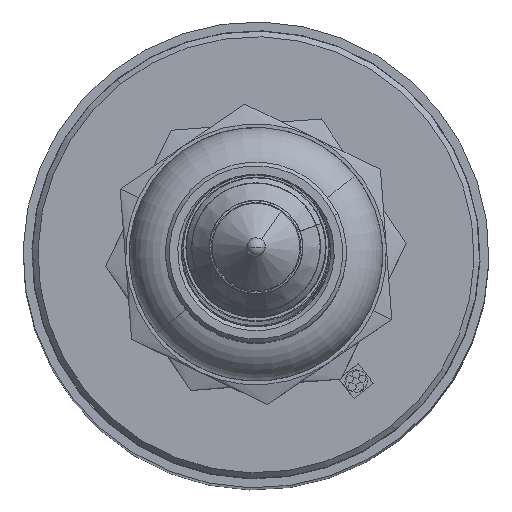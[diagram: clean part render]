
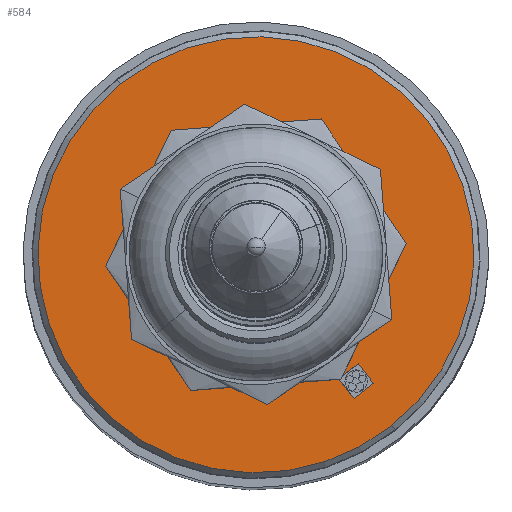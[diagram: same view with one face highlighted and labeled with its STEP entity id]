
A CAD part, top view. The second image highlights one B-rep face of the part: STEP entity #584.
In plain terms, the highlighted planar face has unit normal (0, 0, 1).
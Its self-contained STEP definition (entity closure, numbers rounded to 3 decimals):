
#584=ADVANCED_FACE('',(#1574,#1575),#1576,.T.);
#1574=FACE_OUTER_BOUND('',#2820,.T.);
#1575=FACE_BOUND('',#2821,.T.);
#1576=PLANE('',#2822);
#2820=EDGE_LOOP('',(#6100,#6101));
#2821=EDGE_LOOP('',(#6102,#6103,#6104,#6105,#6106,#6107,#6108,#6109,#6110,#6111));
#2822=AXIS2_PLACEMENT_3D('',#6112,#6113,#6114);
#6100=ORIENTED_EDGE('',*,*,#8878,.F.);
#6101=ORIENTED_EDGE('',*,*,#8479,.F.);
#6102=ORIENTED_EDGE('',*,*,#8879,.T.);
#6103=ORIENTED_EDGE('',*,*,#8880,.T.);
#6104=ORIENTED_EDGE('',*,*,#8881,.T.);
#6105=ORIENTED_EDGE('',*,*,#8882,.T.);
#6106=ORIENTED_EDGE('',*,*,#8883,.T.);
#6107=ORIENTED_EDGE('',*,*,#8884,.T.);
#6108=ORIENTED_EDGE('',*,*,#8885,.T.);
#6109=ORIENTED_EDGE('',*,*,#8886,.T.);
#6110=ORIENTED_EDGE('',*,*,#8887,.T.);
#6111=ORIENTED_EDGE('',*,*,#8888,.T.);
#6112=CARTESIAN_POINT('',(-5.413,6.828,-97.4));
#6113=DIRECTION('',(0.0,0.0,1.0));
#6114=DIRECTION('',(0.784,0.621,0.0));
#8479=EDGE_CURVE('',#10275,#10277,#10278,.T.);
#8878=EDGE_CURVE('',#10277,#10275,#10934,.T.);
#8879=EDGE_CURVE('',#10935,#10936,#10937,.T.);
#8880=EDGE_CURVE('',#10936,#10938,#10939,.T.);
#8881=EDGE_CURVE('',#10938,#10940,#10941,.T.);
#8882=EDGE_CURVE('',#10940,#10942,#10943,.T.);
#8883=EDGE_CURVE('',#10942,#10944,#10945,.T.);
#8884=EDGE_CURVE('',#10944,#10946,#10947,.T.);
#8885=EDGE_CURVE('',#10946,#10948,#10949,.T.);
#8886=EDGE_CURVE('',#10948,#10950,#10951,.T.);
#8887=EDGE_CURVE('',#10950,#10952,#10953,.T.);
#8888=EDGE_CURVE('',#10952,#10935,#10954,.T.);
#10275=VERTEX_POINT('',#12830);
#10277=VERTEX_POINT('',#12833);
#10278=CIRCLE('',#12834,11.7);
#10934=CIRCLE('',#14040,11.7);
#10935=VERTEX_POINT('',#14041);
#10936=VERTEX_POINT('',#14042);
#10937=LINE('',#14043,#14044);
#10938=VERTEX_POINT('',#14045);
#10939=LINE('',#14046,#14047);
#10940=VERTEX_POINT('',#14048);
#10941=LINE('',#14049,#14050);
#10942=VERTEX_POINT('',#14051);
#10943=LINE('',#14052,#14053);
#10944=VERTEX_POINT('',#14054);
#10945=LINE('',#14055,#14056);
#10946=VERTEX_POINT('',#14057);
#10947=LINE('',#14058,#14059);
#10948=VERTEX_POINT('',#14060);
#10949=LINE('',#14061,#14062);
#10950=VERTEX_POINT('',#14063);
#10951=LINE('',#14064,#14065);
#10952=VERTEX_POINT('',#14066);
#10953=LINE('',#14067,#14068);
#10954=LINE('',#14069,#14070);
#12830=CARTESIAN_POINT('',(-7.269,9.168,-97.4));
#12833=CARTESIAN_POINT('',(7.269,-9.168,-97.4));
#12834=AXIS2_PLACEMENT_3D('',#16649,#16650,#16651);
#14040=AXIS2_PLACEMENT_3D('',#17356,#17357,#17358);
#14041=CARTESIAN_POINT('',(4.457,-6.684,-97.4));
#14042=CARTESIAN_POINT('',(-3.504,-7.284,-97.4));
#14043=CARTESIAN_POINT('',(4.457,-6.684,-97.4));
#14044=VECTOR('',#17359,7.984);
#14045=CARTESIAN_POINT('',(-8.06,-0.607,-97.4));
#14046=CARTESIAN_POINT('',(-3.504,-7.284,-97.4));
#14047=VECTOR('',#17360,8.083);
#14048=CARTESIAN_POINT('',(-4.556,6.677,-97.4));
#14049=CARTESIAN_POINT('',(-8.06,-0.607,-97.4));
#14050=VECTOR('',#17361,8.083);
#14051=CARTESIAN_POINT('',(3.504,7.284,-97.4));
#14052=CARTESIAN_POINT('',(-4.556,6.677,-97.4));
#14053=VECTOR('',#17362,8.083);
#14054=CARTESIAN_POINT('',(8.06,0.607,-97.4));
#14055=CARTESIAN_POINT('',(3.504,7.284,-97.4));
#14056=VECTOR('',#17363,8.083);
#14057=CARTESIAN_POINT('',(4.632,-6.517,-97.4));
#14058=CARTESIAN_POINT('',(8.06,0.607,-97.4));
#14059=VECTOR('',#17364,7.906);
#14060=CARTESIAN_POINT('',(5.478,-5.847,-97.4));
#14061=CARTESIAN_POINT('',(4.632,-6.517,-97.4));
#14062=VECTOR('',#17365,1.079);
#14063=CARTESIAN_POINT('',(6.298,-6.881,-97.4));
#14064=CARTESIAN_POINT('',(5.478,-5.847,-97.4));
#14065=VECTOR('',#17366,1.32);
#14066=CARTESIAN_POINT('',(5.264,-7.701,-97.4));
#14067=CARTESIAN_POINT('',(6.298,-6.881,-97.4));
#14068=VECTOR('',#17367,1.32);
#14069=CARTESIAN_POINT('',(5.264,-7.701,-97.4));
#14070=VECTOR('',#17368,1.298);
#16649=CARTESIAN_POINT('',(0.,0.,-97.4));
#16650=DIRECTION('',(0.0,0.0,-1.0));
#16651=DIRECTION('',(-0.621,0.784,0.0));
#17356=CARTESIAN_POINT('',(0.,0.,-97.4));
#17357=DIRECTION('',(0.0,0.0,-1.0));
#17358=DIRECTION('',(-0.621,0.784,0.0));
#17359=DIRECTION('',(-0.997,-0.075,0.0));
#17360=DIRECTION('',(-0.564,0.826,0.0));
#17361=DIRECTION('',(0.434,0.901,0.0));
#17362=DIRECTION('',(0.997,0.075,0.0));
#17363=DIRECTION('',(0.564,-0.826,0.0));
#17364=DIRECTION('',(-0.434,-0.901,0.0));
#17365=DIRECTION('',(0.784,0.621,0.0));
#17366=DIRECTION('',(0.621,-0.784,0.0));
#17367=DIRECTION('',(-0.784,-0.621,0.0));
#17368=DIRECTION('',(-0.621,0.784,0.0));
